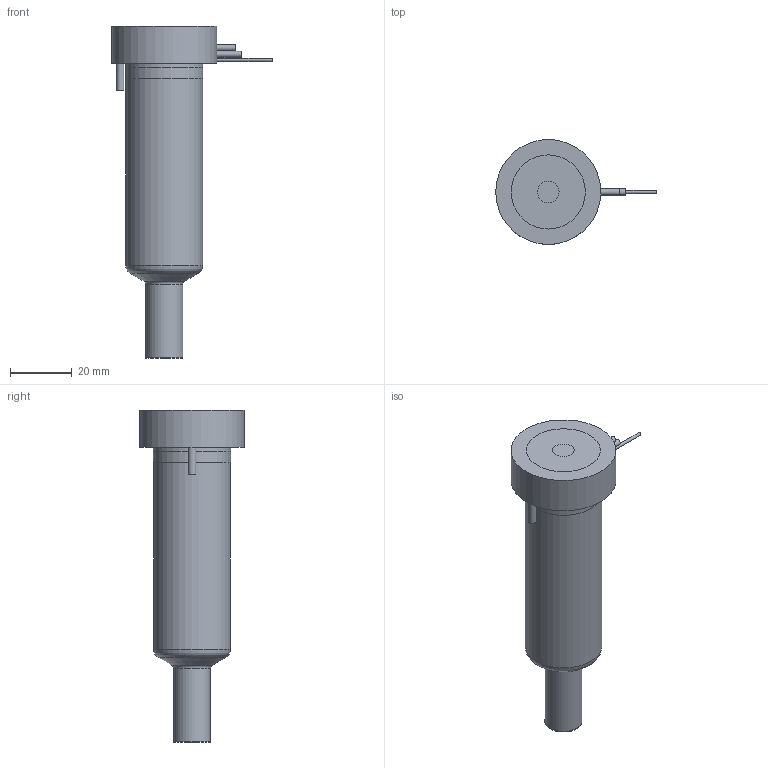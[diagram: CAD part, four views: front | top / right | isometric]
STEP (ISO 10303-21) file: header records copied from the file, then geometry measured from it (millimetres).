
FILE_DESCRIPTION(/* description */ (''),/* implementation_level */ '2;1');
FILE_NAME(/* name */ 'MXYCN16075P4F_200C_a',/* time_stamp */ '2016-02-26T13:57:18+13:00',/* author */ (''),/* organization */ (''),/* preprocessor_version */ 'ST-DEVELOPER v9',/* originating_system */ 'UGS - NX 4.0',/* authorisation */ '');
FILE_SCHEMA (('CONFIG_CONTROL_DESIGN'));
Length unit declared in the file: millimetre
Products named in the file (1): matt70754g5x
Bounding box: 51.95 x 34 x 107.47 mm (x, y, z)
Volume: 79821.2 mm3; surface area: 18275.5 mm2
Topology: 2 solids, 2 shells, 71 faces, 156 edges, 102 vertices
Faces by surface type: plane 31, cylinder 26, torus 7, cone 5, bspline 1, sphere 1
Full cylindrical faces by diameter (mm): 1 x2, 2 x3, 2.5 x1, 5 x1, 7 x1, 11.61 x1, 11.995 x2, 14.8 x1, 20.8 x1, 24.9 x1, 25 x2, 34 x1
Entity records: 2121 total; most frequent: CARTESIAN_POINT 614, DIRECTION 314, ORIENTED_EDGE 234, AXIS2_PLACEMENT_3D 141, EDGE_CURVE 117, EDGE_LOOP 114, VERTEX_POINT 91, ADVANCED_FACE 71
